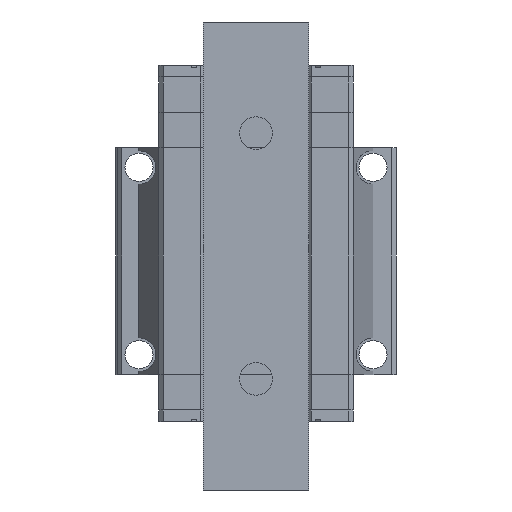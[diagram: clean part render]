
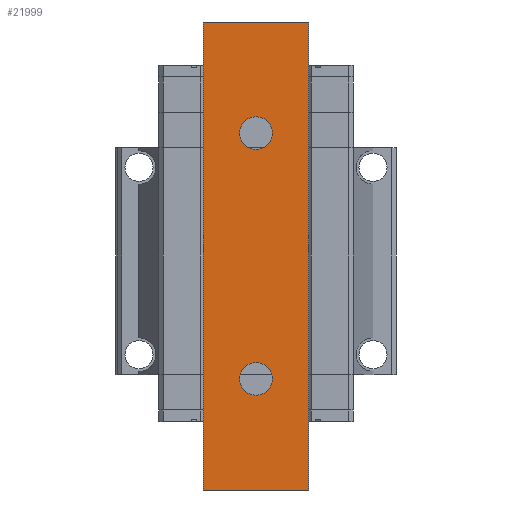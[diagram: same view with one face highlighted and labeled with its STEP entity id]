
A CAD part, front view. The second image highlights one B-rep face of the part: STEP entity #21999.
In plain terms, the highlighted planar face has unit normal (0, -1, 0).
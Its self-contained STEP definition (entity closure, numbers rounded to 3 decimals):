
#84 = VECTOR ( 'NONE', #12331, 1000. ) ;
#973 = EDGE_CURVE ( 'NONE', #25776, #25725, #14922, .T. ) ;
#1004 = VERTEX_POINT ( 'NONE', #13975 ) ;
#1487 = DIRECTION ( 'NONE',  ( 0., 0., 1. ) ) ;
#1824 = FACE_OUTER_BOUND ( 'NONE', #19127, .T. ) ;
#3171 = CARTESIAN_POINT ( 'NONE',  ( 0., -9.5, 59.5 ) ) ;
#3782 = CARTESIAN_POINT ( 'NONE',  ( -22.5, -9.5, -100. ) ) ;
#4076 = CARTESIAN_POINT ( 'NONE',  ( 0., -9.5, -52.5 ) ) ;
#4428 = EDGE_LOOP ( 'NONE', ( #26406, #26438 ) ) ;
#5179 = DIRECTION ( 'NONE',  ( 0., 0., 1. ) ) ;
#5371 = CARTESIAN_POINT ( 'NONE',  ( 22.5, -9.5, -100. ) ) ;
#5733 = DIRECTION ( 'NONE',  ( 1., 0., 0. ) ) ;
#6342 = DIRECTION ( 'NONE',  ( 0., 1., 0. ) ) ;
#7340 = DIRECTION ( 'NONE',  ( 0., 0., 1. ) ) ;
#7457 = CARTESIAN_POINT ( 'NONE',  ( 0., -9.5, 52.5 ) ) ;
#7568 = EDGE_CURVE ( 'NONE', #15115, #22930, #20787, .T. ) ;
#7713 = ORIENTED_EDGE ( 'NONE', *, *, #18952, .T. ) ;
#8351 = FACE_BOUND ( 'NONE', #4428, .T. ) ;
#8393 = VECTOR ( 'NONE', #15918, 1000. ) ;
#8557 = AXIS2_PLACEMENT_3D ( 'NONE', #7457, #26681, #7340 ) ;
#8645 = DIRECTION ( 'NONE',  ( 1., 0., 0. ) ) ;
#9152 = PLANE ( 'NONE',  #25576 ) ;
#9994 = VERTEX_POINT ( 'NONE', #19579 ) ;
#10232 = DIRECTION ( 'NONE',  ( 0., 1., 0. ) ) ;
#10436 = LINE ( 'NONE', #19954, #23741 ) ;
#10861 = CARTESIAN_POINT ( 'NONE',  ( 0., -9.5, 45.5 ) ) ;
#11255 = DIRECTION ( 'NONE',  ( 1., 0., 0. ) ) ;
#11360 = DIRECTION ( 'NONE',  ( 0., -1., 0. ) ) ;
#11558 = EDGE_CURVE ( 'NONE', #22930, #15115, #12539, .T. ) ;
#11828 = ORIENTED_EDGE ( 'NONE', *, *, #973, .T. ) ;
#12331 = DIRECTION ( 'NONE',  ( 0., 0., 1. ) ) ;
#12519 = FACE_BOUND ( 'NONE', #13816, .T. ) ;
#12539 = CIRCLE ( 'NONE', #8557, 7. ) ;
#13516 = AXIS2_PLACEMENT_3D ( 'NONE', #29018, #10232, #5179 ) ;
#13816 = EDGE_LOOP ( 'NONE', ( #7713, #11828 ) ) ;
#13881 = EDGE_CURVE ( 'NONE', #21131, #9994, #25987, .T. ) ;
#13975 = CARTESIAN_POINT ( 'NONE',  ( -22.5, -9.5, -100. ) ) ;
#14122 = LINE ( 'NONE', #27464, #8393 ) ;
#14554 = CARTESIAN_POINT ( 'NONE',  ( 0., -9.5, -45.5 ) ) ;
#14922 = CIRCLE ( 'NONE', #19221, 7. ) ;
#15115 = VERTEX_POINT ( 'NONE', #10861 ) ;
#15918 = DIRECTION ( 'NONE',  ( 0., 0., 1. ) ) ;
#16112 = CARTESIAN_POINT ( 'NONE',  ( 0., -9.5, -52.5 ) ) ;
#16979 = CARTESIAN_POINT ( 'NONE',  ( 0., -9.5, -59.5 ) ) ;
#17098 = CARTESIAN_POINT ( 'NONE',  ( -22.5, -9.5, 100. ) ) ;
#17934 = LINE ( 'NONE', #23268, #27453 ) ;
#18327 = DIRECTION ( 'NONE',  ( 0., 0., 1. ) ) ;
#18952 = EDGE_CURVE ( 'NONE', #25725, #25776, #31005, .T. ) ;
#19127 = EDGE_LOOP ( 'NONE', ( #21421, #30822, #23739, #20757 ) ) ;
#19221 = AXIS2_PLACEMENT_3D ( 'NONE', #4076, #6342, #18327 ) ;
#19579 = CARTESIAN_POINT ( 'NONE',  ( 22.5, -9.5, 100. ) ) ;
#19954 = CARTESIAN_POINT ( 'NONE',  ( -22.5, -9.5, -100. ) ) ;
#19957 = AXIS2_PLACEMENT_3D ( 'NONE', #16112, #27863, #1487 ) ;
#20757 = ORIENTED_EDGE ( 'NONE', *, *, #24403, .T. ) ;
#20787 = CIRCLE ( 'NONE', #13516, 7. ) ;
#21131 = VERTEX_POINT ( 'NONE', #26506 ) ;
#21421 = ORIENTED_EDGE ( 'NONE', *, *, #13881, .T. ) ;
#21999 = ADVANCED_FACE ( 'NONE', ( #12519, #8351, #1824 ), #9152, .T. ) ;
#22930 = VERTEX_POINT ( 'NONE', #3171 ) ;
#23268 = CARTESIAN_POINT ( 'NONE',  ( -22.5, -9.5, 100. ) ) ;
#23739 = ORIENTED_EDGE ( 'NONE', *, *, #29953, .F. ) ;
#23741 = VECTOR ( 'NONE', #5733, 1000. ) ;
#24403 = EDGE_CURVE ( 'NONE', #1004, #21131, #10436, .T. ) ;
#25576 = AXIS2_PLACEMENT_3D ( 'NONE', #3782, #11360, #11255 ) ;
#25725 = VERTEX_POINT ( 'NONE', #14554 ) ;
#25776 = VERTEX_POINT ( 'NONE', #16979 ) ;
#25987 = LINE ( 'NONE', #5371, #84 ) ;
#26406 = ORIENTED_EDGE ( 'NONE', *, *, #11558, .T. ) ;
#26438 = ORIENTED_EDGE ( 'NONE', *, *, #7568, .T. ) ;
#26506 = CARTESIAN_POINT ( 'NONE',  ( 22.5, -9.5, -100. ) ) ;
#26681 = DIRECTION ( 'NONE',  ( 0., 1., 0. ) ) ;
#27086 = VERTEX_POINT ( 'NONE', #17098 ) ;
#27453 = VECTOR ( 'NONE', #8645, 1000. ) ;
#27464 = CARTESIAN_POINT ( 'NONE',  ( -22.5, -9.5, -100. ) ) ;
#27484 = EDGE_CURVE ( 'NONE', #27086, #9994, #17934, .T. ) ;
#27863 = DIRECTION ( 'NONE',  ( 0., 1., 0. ) ) ;
#29018 = CARTESIAN_POINT ( 'NONE',  ( 0., -9.5, 52.5 ) ) ;
#29953 = EDGE_CURVE ( 'NONE', #1004, #27086, #14122, .T. ) ;
#30822 = ORIENTED_EDGE ( 'NONE', *, *, #27484, .F. ) ;
#31005 = CIRCLE ( 'NONE', #19957, 7. ) ;
